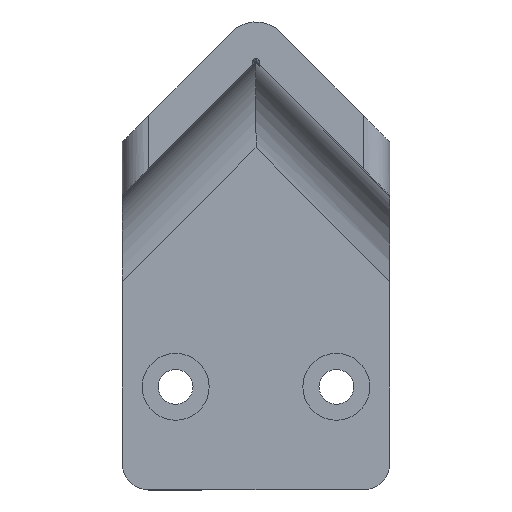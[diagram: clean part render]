
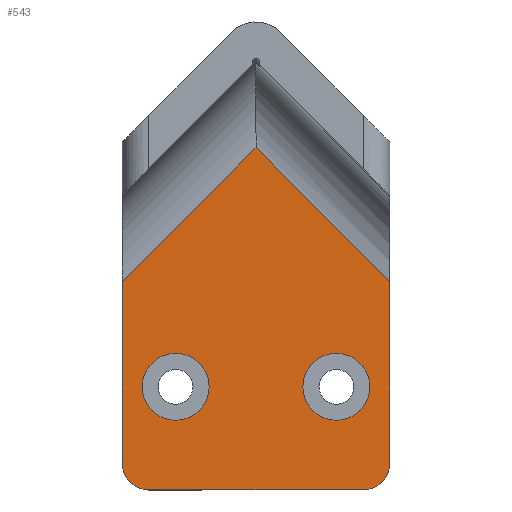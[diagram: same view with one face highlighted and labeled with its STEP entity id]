
A CAD part, top view. The second image highlights one B-rep face of the part: STEP entity #543.
In plain terms, the highlighted planar face has unit normal (0, 0, 1).
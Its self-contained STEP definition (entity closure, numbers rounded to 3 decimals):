
#20=FACE_BOUND('',#192,.T.);
#21=FACE_BOUND('',#193,.T.);
#38=PLANE('',#609);
#62=LINE('',#1095,#103);
#70=LINE('',#1123,#111);
#73=LINE('',#1136,#114);
#74=LINE('',#1139,#115);
#75=LINE('',#1143,#116);
#103=VECTOR('',#689,10.);
#111=VECTOR('',#715,10.);
#114=VECTOR('',#732,10.);
#115=VECTOR('',#737,10.);
#116=VECTOR('',#742,1000.);
#157=FACE_OUTER_BOUND('',#191,.T.);
#191=EDGE_LOOP('',(#461,#462,#463,#464,#465,#466,#467));
#192=EDGE_LOOP('',(#468));
#193=EDGE_LOOP('',(#469));
#223=CIRCLE('',#598,2.);
#225=CIRCLE('',#610,2.);
#226=CIRCLE('',#611,2.5);
#227=CIRCLE('',#612,2.5);
#265=VERTEX_POINT('',#1092);
#266=VERTEX_POINT('',#1094);
#275=VERTEX_POINT('',#1116);
#276=VERTEX_POINT('',#1120);
#277=VERTEX_POINT('',#1122);
#280=VERTEX_POINT('',#1135);
#281=VERTEX_POINT('',#1141);
#282=VERTEX_POINT('',#1144);
#283=VERTEX_POINT('',#1146);
#324=EDGE_CURVE('',#265,#266,#62,.T.);
#335=EDGE_CURVE('',#275,#266,#223,.T.);
#338=EDGE_CURVE('',#276,#277,#70,.T.);
#345=EDGE_CURVE('',#280,#265,#73,.T.);
#347=EDGE_CURVE('',#277,#280,#74,.T.);
#348=EDGE_CURVE('',#276,#281,#225,.T.);
#349=EDGE_CURVE('',#275,#281,#75,.T.);
#350=EDGE_CURVE('',#282,#282,#226,.T.);
#351=EDGE_CURVE('',#283,#283,#227,.T.);
#461=ORIENTED_EDGE('',*,*,#345,.F.);
#462=ORIENTED_EDGE('',*,*,#347,.F.);
#463=ORIENTED_EDGE('',*,*,#338,.F.);
#464=ORIENTED_EDGE('',*,*,#348,.T.);
#465=ORIENTED_EDGE('',*,*,#349,.F.);
#466=ORIENTED_EDGE('',*,*,#335,.T.);
#467=ORIENTED_EDGE('',*,*,#324,.F.);
#468=ORIENTED_EDGE('',*,*,#350,.F.);
#469=ORIENTED_EDGE('',*,*,#351,.F.);
#543=ADVANCED_FACE('',(#157,#20,#21),#38,.T.);
#598=AXIS2_PLACEMENT_3D('',#1117,#709,#710);
#609=AXIS2_PLACEMENT_3D('',#1140,#738,#739);
#610=AXIS2_PLACEMENT_3D('',#1142,#740,#741);
#611=AXIS2_PLACEMENT_3D('',#1145,#743,#744);
#612=AXIS2_PLACEMENT_3D('',#1147,#745,#746);
#689=DIRECTION('',(0.,-1.,0.));
#709=DIRECTION('center_axis',(0.,0.,
1.));
#710=DIRECTION('ref_axis',(0.,-1.,0.));
#715=DIRECTION('',(0.,1.,0.));
#732=DIRECTION('',(0.707,-0.707,0.));
#737=DIRECTION('',(0.707,0.707,0.));
#738=DIRECTION('center_axis',(0.,0.,
1.));
#739=DIRECTION('ref_axis',(0.,-1.,0.));
#740=DIRECTION('center_axis',(0.,0.,
1.));
#741=DIRECTION('ref_axis',(0.,-1.,0.));
#742=DIRECTION('',(-1.,0.,0.));
#743=DIRECTION('center_axis',(0.,0.,
1.));
#744=DIRECTION('ref_axis',(0.,-1.,0.));
#745=DIRECTION('center_axis',(0.,0.,
1.));
#746=DIRECTION('ref_axis',(0.,-1.,0.));
#1092=CARTESIAN_POINT('',(170.,23.636,61.1));
#1094=CARTESIAN_POINT('',(170.,10.1,61.1));
#1095=CARTESIAN_POINT('',(170.,17.3,61.1));
#1116=CARTESIAN_POINT('',(168.,8.1,61.1));
#1117=CARTESIAN_POINT('Origin',(168.,10.1,61.1));
#1120=CARTESIAN_POINT('',(150.,10.1,61.1));
#1122=CARTESIAN_POINT('',(150.,23.636,61.1));
#1123=CARTESIAN_POINT('',(150.,24.025,61.1));
#1135=CARTESIAN_POINT('',(160.,33.636,61.1));
#1136=CARTESIAN_POINT('',(167.993,25.643,61.1));
#1139=CARTESIAN_POINT('',(157.007,30.643,61.1));
#1140=CARTESIAN_POINT('Origin',(160.,15.3,61.1));
#1141=CARTESIAN_POINT('',(152.,8.1,61.1));
#1142=CARTESIAN_POINT('Origin',(152.,10.1,61.1));
#1143=CARTESIAN_POINT('',(160.,8.1,61.1));
#1144=CARTESIAN_POINT('',(154.,18.3,61.1));
#1145=CARTESIAN_POINT('Origin',(154.,15.8,61.1));
#1146=CARTESIAN_POINT('',(166.,18.3,61.1));
#1147=CARTESIAN_POINT('Origin',(166.,15.8,61.1));
